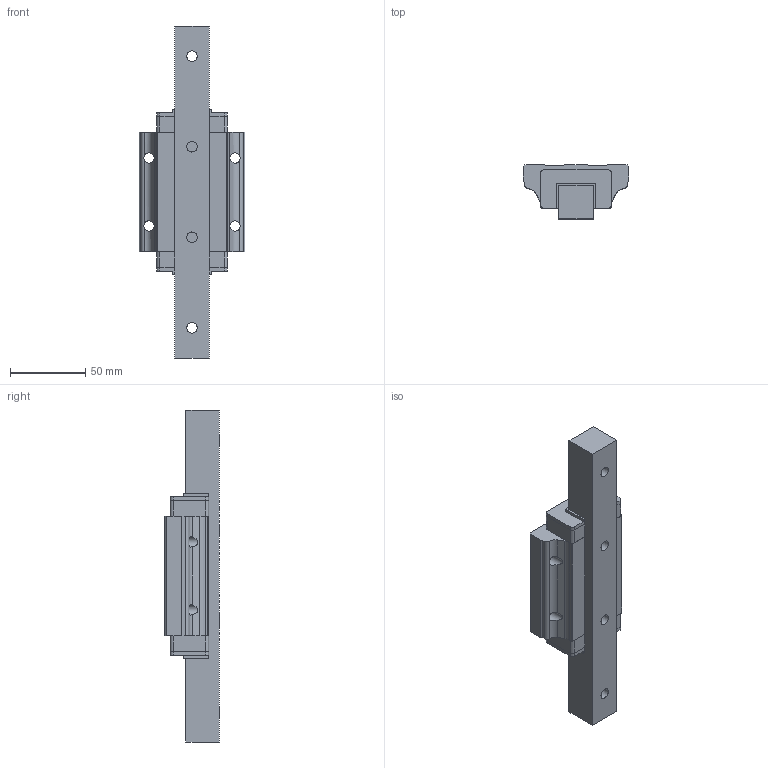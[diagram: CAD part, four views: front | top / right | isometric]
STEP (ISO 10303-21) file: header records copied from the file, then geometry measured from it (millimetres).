
FILE_DESCRIPTION((''),'2;1');
FILE_NAME('E:\PDF郪磁芞\DFH25AL.STP','2018-01-27T14:16:26',(''),(''),'STEP Write','Mastercam V9 ... CNC Software, Inc.','');
FILE_SCHEMA(('CONFIG_CONTROL_DESIGN'));
Length unit declared in the file: millimetre
Bounding box: 70 x 36 x 220 mm (x, y, z)
Volume: 236931.3 mm3; surface area: 55567.2 mm2
Topology: 6 solids, 6 shells, 126 faces, 642 edges, 817 vertices
Faces by surface type: plane 88, cylinder 38
Full cylindrical faces by diameter (mm): 6.8 x4, 7 x4, 11 x4
Entity records: 6362 total; most frequent: CARTESIAN_POINT 1898, DIRECTION 959, ORIENTED_EDGE 668, VECTOR 459, LINE 459, EDGE_CURVE 334, TRIMMED_CURVE 273, AXIS2_PLACEMENT_3D 250
